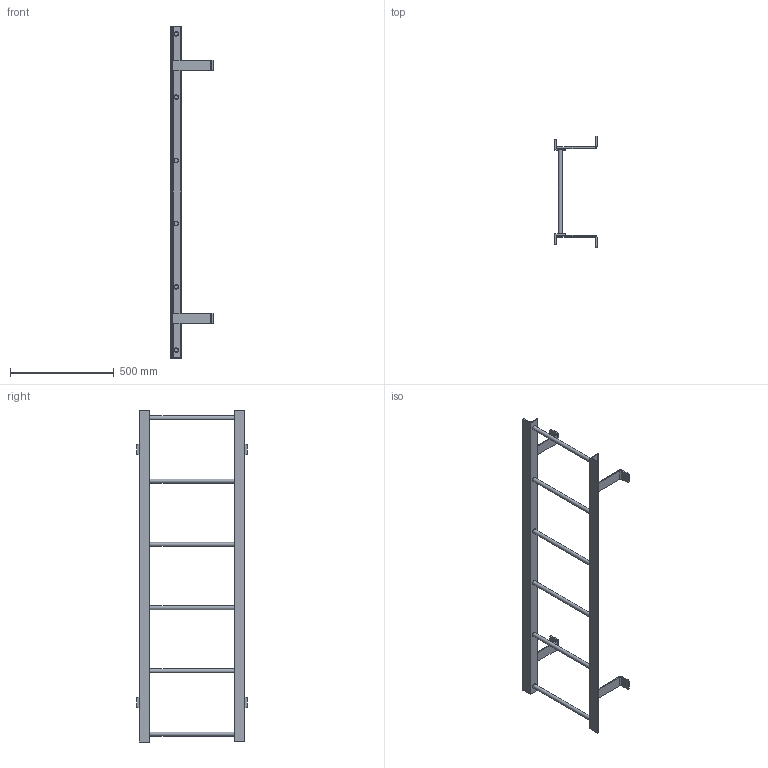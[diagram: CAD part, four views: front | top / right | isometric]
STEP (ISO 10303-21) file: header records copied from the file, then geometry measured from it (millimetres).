
FILE_DESCRIPTION(/* description */ (''),/* implementation_level */ '2;1');
FILE_NAME(/* name */ 'P:\MIKEL & KAREN\3570206 F6S SIMPLIFIED PART .stp',/* time_stamp */ '2018-07-02T15:20:29-04:00',/* author */ ('stephanie'),/* organization */ (''),/* preprocessor_version */ 'ST-DEVELOPER v16.1',/* originating_system */ 'Autodesk Inventor 2016',/* authorisation */ '');
FILE_SCHEMA (('AUTOMOTIVE_DESIGN { 1 0 10303 214 3 1 1 }'));
Length unit declared in the file: centimetre
Products named in the file (1): 3570206 F6S SIMPLIFIED PART 
Bounding box: 203.33 x 533.25 x 1600.2 mm (x, y, z)
Volume: 2943200.1 mm3; surface area: 881871 mm2
Topology: 8 solids, 8 shells, 110 faces, 290 edges, 196 vertices
Faces by surface type: plane 65, cylinder 45
Full cylindrical faces by diameter (mm): 14.287 x4, 19.05 x6, 22.225 x12
Entity records: 3394 total; most frequent: DIRECTION 572, CARTESIAN_POINT 543, ORIENTED_EDGE 504, EDGE_CURVE 252, AXIS2_PLACEMENT_3D 209, VERTEX_POINT 180, EDGE_LOOP 164, LINE 154
